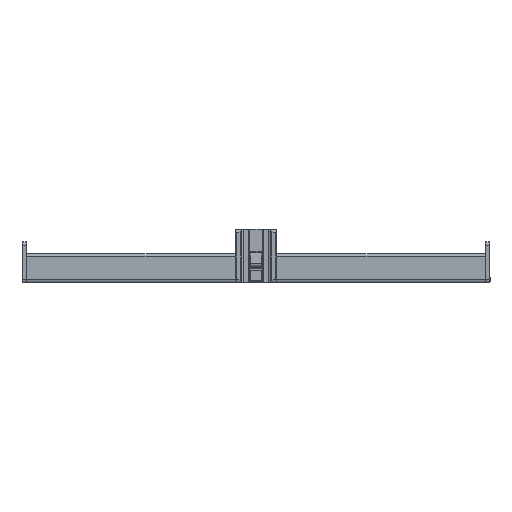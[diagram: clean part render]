
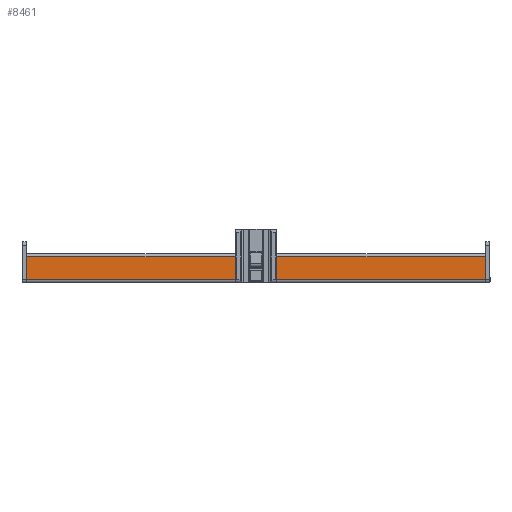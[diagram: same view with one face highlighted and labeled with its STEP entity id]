
A CAD part, front view. The second image highlights one B-rep face of the part: STEP entity #8461.
In plain terms, the highlighted planar face has unit normal (0, -1, 0).
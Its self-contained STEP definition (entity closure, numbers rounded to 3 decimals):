
#179 = CARTESIAN_POINT ( 'NONE',  ( 36.85, 5315.45, 1596.8 ) ) ;
#417 = LINE ( 'NONE', #2611, #3499 ) ;
#628 = VECTOR ( 'NONE', #7305, 1000. ) ;
#798 = CARTESIAN_POINT ( 'NONE',  ( -171.75, 5315.45, 1576.8 ) ) ;
#1383 = LINE ( 'NONE', #2407, #6768 ) ;
#1421 = CARTESIAN_POINT ( 'NONE',  ( -171.75, 5315.45, 1599.3 ) ) ;
#1565 = VECTOR ( 'NONE', #8037, 1000. ) ;
#1640 = LINE ( 'NONE', #1421, #5540 ) ;
#1859 = LINE ( 'NONE', #3028, #13634 ) ;
#2407 = CARTESIAN_POINT ( 'NONE',  ( 11.65, 5315.45, 1578.05 ) ) ;
#2573 = VERTEX_POINT ( 'NONE', #4512 ) ;
#2611 = CARTESIAN_POINT ( 'NONE',  ( 220.25, 5315.45, 1596.8 ) ) ;
#2826 = ORIENTED_EDGE ( 'NONE', *, *, #13723, .T. ) ;
#2958 = DIRECTION ( 'NONE',  ( 0., -1., 0. ) ) ;
#3028 = CARTESIAN_POINT ( 'NONE',  ( 220.25, 5315.45, 1599.3 ) ) ;
#3378 = CARTESIAN_POINT ( 'NONE',  ( -150., 5315.45, 1586.8 ) ) ;
#3499 = VECTOR ( 'NONE', #5740, 1000. ) ;
#3551 = ORIENTED_EDGE ( 'NONE', *, *, #13131, .T. ) ;
#3581 = VERTEX_POINT ( 'NONE', #13244 ) ;
#3903 = DIRECTION ( 'NONE',  ( 0., 0., -1. ) ) ;
#4185 = LINE ( 'NONE', #8379, #628 ) ;
#4303 = CARTESIAN_POINT ( 'NONE',  ( 11.65, 5315.45, 1586.8 ) ) ;
#4416 = CARTESIAN_POINT ( 'NONE',  ( 220.25, 5315.45, 1596.8 ) ) ;
#4512 = CARTESIAN_POINT ( 'NONE',  ( 220.25, 5315.45, 1576.8 ) ) ;
#4557 = VERTEX_POINT ( 'NONE', #5870 ) ;
#4671 = VERTEX_POINT ( 'NONE', #179 ) ;
#5531 = LINE ( 'NONE', #7560, #10027 ) ;
#5540 = VECTOR ( 'NONE', #3903, 1000. ) ;
#5740 = DIRECTION ( 'NONE',  ( -1., 0., 0. ) ) ;
#5799 = CARTESIAN_POINT ( 'NONE',  ( 36.85, 5315.45, 1578.05 ) ) ;
#5870 = CARTESIAN_POINT ( 'NONE',  ( -171.75, 5315.45, 1596.8 ) ) ;
#6443 = VERTEX_POINT ( 'NONE', #798 ) ;
#6475 = CARTESIAN_POINT ( 'NONE',  ( 11.65, 5315.45, 1596.8 ) ) ;
#6485 = VERTEX_POINT ( 'NONE', #4303 ) ;
#6768 = VECTOR ( 'NONE', #11202, 1000. ) ;
#7305 = DIRECTION ( 'NONE',  ( -1., 0., 0. ) ) ;
#7377 = ORIENTED_EDGE ( 'NONE', *, *, #10970, .T. ) ;
#7560 = CARTESIAN_POINT ( 'NONE',  ( 220.25, 5315.45, 1576.8 ) ) ;
#8002 = ORIENTED_EDGE ( 'NONE', *, *, #9437, .T. ) ;
#8037 = DIRECTION ( 'NONE',  ( 0., 0., -1. ) ) ;
#8379 = CARTESIAN_POINT ( 'NONE',  ( 220.25, 5315.45, 1596.8 ) ) ;
#8461 = ADVANCED_FACE ( 'NONE', ( #14011 ), #8469, .T. ) ;
#8469 = PLANE ( 'NONE',  #14141 ) ;
#9344 = LINE ( 'NONE', #5799, #1565 ) ;
#9437 = EDGE_CURVE ( 'NONE', #6485, #9723, #1383, .T. ) ;
#9494 = DIRECTION ( 'NONE',  ( 0., 0., -1. ) ) ;
#9633 = EDGE_CURVE ( 'NONE', #2573, #6443, #5531, .T. ) ;
#9723 = VERTEX_POINT ( 'NONE', #6475 ) ;
#9790 = ORIENTED_EDGE ( 'NONE', *, *, #9633, .F. ) ;
#10027 = VECTOR ( 'NONE', #10835, 1000. ) ;
#10607 = ORIENTED_EDGE ( 'NONE', *, *, #12128, .F. ) ;
#10835 = DIRECTION ( 'NONE',  ( -1., 0., 0. ) ) ;
#10970 = EDGE_CURVE ( 'NONE', #9723, #4557, #417, .T. ) ;
#11023 = DIRECTION ( 'NONE',  ( -1., 0., 0. ) ) ;
#11202 = DIRECTION ( 'NONE',  ( 0., 0., 1. ) ) ;
#11327 = ORIENTED_EDGE ( 'NONE', *, *, #13119, .T. ) ;
#11834 = DIRECTION ( 'NONE',  ( 1., 0., 0. ) ) ;
#12103 = ORIENTED_EDGE ( 'NONE', *, *, #13382, .T. ) ;
#12118 = LINE ( 'NONE', #3378, #14120 ) ;
#12128 = EDGE_CURVE ( 'NONE', #13380, #2573, #1859, .T. ) ;
#12915 = CARTESIAN_POINT ( 'NONE',  ( -150., 5315.45, 1599.3 ) ) ;
#13033 = EDGE_LOOP ( 'NONE', ( #2826, #11327, #12103, #8002, #7377, #3551, #9790, #10607 ) ) ;
#13119 = EDGE_CURVE ( 'NONE', #4671, #3581, #9344, .T. ) ;
#13131 = EDGE_CURVE ( 'NONE', #4557, #6443, #1640, .T. ) ;
#13244 = CARTESIAN_POINT ( 'NONE',  ( 36.85, 5315.45, 1586.8 ) ) ;
#13380 = VERTEX_POINT ( 'NONE', #4416 ) ;
#13382 = EDGE_CURVE ( 'NONE', #3581, #6485, #12118, .T. ) ;
#13634 = VECTOR ( 'NONE', #9494, 1000. ) ;
#13723 = EDGE_CURVE ( 'NONE', #13380, #4671, #4185, .T. ) ;
#14011 = FACE_OUTER_BOUND ( 'NONE', #13033, .T. ) ;
#14120 = VECTOR ( 'NONE', #11023, 1000. ) ;
#14141 = AXIS2_PLACEMENT_3D ( 'NONE', #12915, #2958, #11834 ) ;
